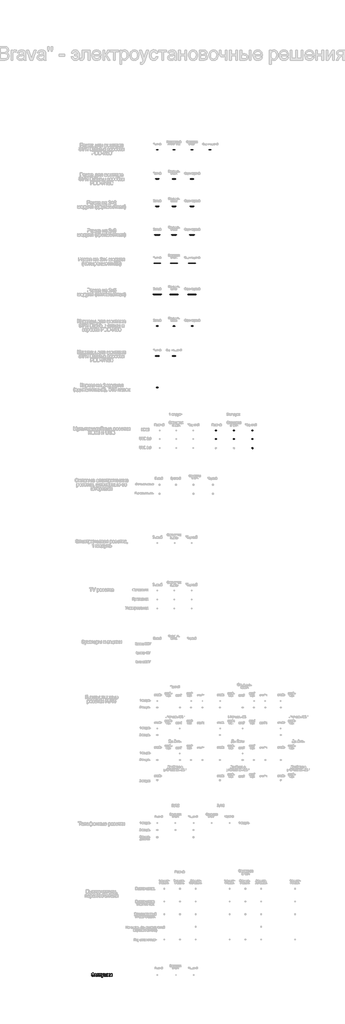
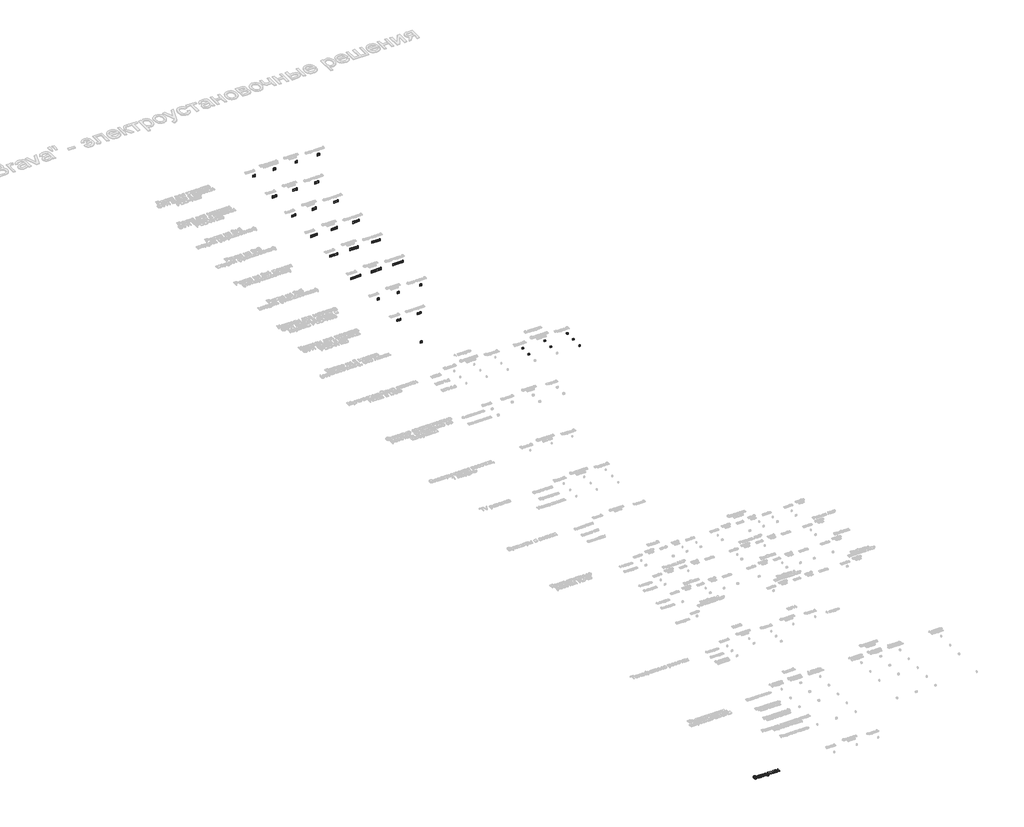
# One storey, part 2 of 47: 33 proxies.
"""IFC4 building model written with IfcOpenShell, lengths in millimetres."""

from ifc_helpers import new_model, si_unit, origin, origin_with_axes, place, context, project, spatial, polyline, outline, extrude, transform, mapped, element, save
from components import electrical_fixtures_2476e472, electrical_fixtures_ccfadcb0, electrical_fixtures_146b7f6f, electrical_fixtures_96c6bdfd, electrical_fixtures_fbcc075d, electrical_fixtures_0f3627e5, electrical_fixtures_76e51104, electrical_fixtures_c9cc8b38, electrical_fixtures_93c86673, electrical_fixtures_8efbb15c, hdmi_63f187ea, hdmi_5f817c11

model = new_model("IFC4")

# Units and contexts
model_context = context("Model", 3, world=origin())
ifc_project = project(units=[si_unit("LENGTHUNIT", "METRE", prefix="MILLI")], contexts=[model_context])

# Site, building, storey
site = spatial("IfcSite", under=ifc_project)
building = spatial("IfcBuilding", under=site)
storey = spatial("IfcBuildingStorey", under=building, Name="Этаж 01", Elevation=0.0)

# Proxies
placement = place(None, origin())
element("IfcBuildingElementProxy", 1, Name="150 мм Arial", ObjectType="150 мм Arial", at=placement, inside=storey, context=model_context, shape_type="SweptSolid", body=[
    extrude(outline(polyline([(-2899.5549825, -32460.2929103), (-2880.7194244, -32455.5840207), (-2869.1495356, -32475.9830774), (-2858.2188419, -32483.6396214), (-2844.2255305, -32486.1918027), (-2830.0482781, -32484.2742178), (-2819.2279489, -32478.5214631), (-2812.3715482, -32470.0555787), (-2810.0860813, -32459.9986047), (-2812.5830804, -32449.463384), (-2820.0740775, -32441.3285934), (-2831.8692939, -32436.1276617), (-2847.278951, -32434.3940178), (-2857.1749767, -32434.3940178), (-2857.1749767, -32415.5584597), (-2835.8562151, -32414.0317494), (-2822.8147983, -32406.2326511), (-2817.1494156, -32391.9772238), (-2819.0348108, -32383.1066692), (-2824.6909965, -32375.4777163), (-2833.5661497, -32370.2216023), (-2845.1084472, -32368.4695643), (-2864.3302815, -32373.8590355), (-2875.3299532, -32388.151251), (-2878.3649796, -32401.431791), (-2897.2005378, -32396.7229015), (-2891.3489148, -32376.1215098), (-2880.7470155, -32361.40623), (-2865.39484, -32352.5770621), (-2845.2923882, -32349.6340061), (-2825.9004086, -32352.6920252), (-2810.9873922, -32361.8660825), (-2801.4822411, -32375.1328269), (-2798.3138575, -32390.4689076), (-2803.2434762, -32409.1113277), (-2818.0323324, -32423.0264642), (-2807.5568926, -32427.8503168), (-2798.9392569, -32435.9943045), (-2793.1727066, -32446.7594514), (-2791.2505232, -32459.4467817), (-2794.9385402, -32477.2844599), (-2806.0025912, -32491.949156), (-2823.1550892, -32501.7578096), (-2845.1084472, -32505.0273609), (-2864.2107198, -32502.2314577), (-2879.6525666, -32493.8437482), (-2891.4339875, -32479.8642324), (-2899.5549825, -32460.2929103)])), origin_with_axes(), (0.0, 0.0, 1.0), 20.0),
    extrude(outline(polyline([(-2697.0727324, -32488.5462475), (-2715.3380735, -32501.3117527), (-2735.5164009, -32505.0273609), (-2751.2571518, -32502.7924778), (-2762.8684272, -32496.0878284), (-2770.0283306, -32485.9066942), (-2772.414965, -32473.2423565), (-2768.8097214, -32458.3431357), (-2759.3367601, -32447.527405), (-2746.1481905, -32441.3469875), (-2729.8510182, -32438.5142962), (-2697.183097, -32432.039573), (-2697.0727324, -32427.8457183), (-2698.3695164, -32419.4396147), (-2702.2598685, -32413.9397789), (-2710.9602777, -32409.8562887), (-2723.0819894, -32408.4951253), (-2742.1382768, -32412.118763), (-2751.2249621, -32424.9762387), (-2770.0605202, -32422.621794), (-2761.911934, -32404.2276942), (-2745.5043971, -32393.4487517), (-2720.6539683, -32389.6595672), (-2697.8268905, -32393.0072933), (-2684.9326265, -32401.4133969), (-2679.1568792, -32414.1972963), (-2678.2371742, -32430.6784097), (-2678.2371742, -32454.1124927), (-2677.280681, -32486.8355962), (-2673.5282847, -32502.6729161), (-2692.3638429, -32502.6729161), (-2697.0727324, -32488.5462475)]), holes=[polyline([(-2697.0727324, -32450.8751312), (-2727.4597852, -32456.6508785), (-2743.6649871, -32459.7042991), (-2751.0042329, -32464.670706), (-2753.5794068, -32471.9179813), (-2747.9692064, -32482.1083126), (-2731.5064871, -32486.1918027), (-2712.4501998, -32481.6852483), (-2700.1629411, -32470.7775471), (-2697.183097, -32456.2094201), (-2697.0727324, -32450.8751312)])]), origin_with_axes(), (0.0, 0.0, 1.0), 20.0),
    extrude(outline(polyline([(-2652.3382818, -32392.014012), (-2591.1227178, -32392.014012), (-2591.1227178, -32410.8495701), (-2633.5027236, -32410.8495701), (-2633.5027236, -32502.6729161), (-2652.3382818, -32502.6729161), (-2652.3382818, -32392.014012)])), origin_with_axes(), (0.0, 0.0, 1.0), 20.0),
    extrude(outline(polyline([(-2567.5782701, -32392.014012), (-2482.8182584, -32392.014012), (-2482.8182584, -32502.5625515), (-2501.6538166, -32502.5625515), (-2501.6538166, -32410.8495701), (-2548.7427119, -32410.8495701), (-2548.7427119, -32463.6406364), (-2550.0119048, -32487.9944245), (-2556.9832686, -32498.2767263), (-2573.464382, -32502.6729161), (-2588.768273, -32501.7164229), (-2588.768273, -32483.837358), (-2580.3437753, -32483.837358), (-2571.8273071, -32482.6785297), (-2568.4243987, -32478.9997097), (-2567.5782701, -32462.5737786), (-2567.5782701, -32392.014012)])), origin_with_axes(), (0.0, 0.0, 1.0), 20.0),
    extrude(outline(polyline([(-2454.5649212, -32545.052922), (-2456.9193659, -32526.9163396), (-2447.3544341, -32528.5718086), (-2438.4149016, -32526.4932753), (-2432.9334599, -32520.6991339), (-2427.7831119, -32506.8299827), (-2426.3115839, -32502.2682459), (-2466.337145, -32392.014012), (-2446.4715173, -32392.014012), (-2425.2447262, -32453.4503052), (-2417.8502981, -32478.0248224), (-2410.4558699, -32456.3197847), (-2388.6404676, -32392.014012), (-2368.9219927, -32392.014012), (-2407.4392376, -32505.3216665), (-2417.4456279, -32529.8961838), (-2428.3717231, -32543.1767238), (-2443.0502147, -32547.4073667), (-2454.5649212, -32545.052922)])), origin_with_axes(), (0.0, 0.0, 1.0), 20.0),
    extrude(outline(polyline([(-2353.3237961, -32392.014012), (-2334.4882379, -32392.014012), (-2334.4882379, -32483.837358), (-2292.1082321, -32483.837358), (-2292.1082321, -32392.014012), (-2273.2726739, -32392.014012), (-2273.2726739, -32483.837358), (-2230.8926681, -32483.837358), (-2230.8926681, -32392.014012), (-2212.0571099, -32392.014012), (-2212.0571099, -32502.6729161), (-2353.3237961, -32502.6729161), (-2353.3237961, -32392.014012)])), origin_with_axes(), (0.0, 0.0, 1.0), 20.0),
    extrude(outline(polyline([(-2186.1582175, -32392.014012), (-2167.3226593, -32392.014012), (-2167.3226593, -32439.1029073), (-2154.7043069, -32435.718393), (-2144.3668228, -32415.999918), (-2135.7767782, -32398.9853758), (-2128.1984091, -32393.4487517), (-2114.4212284, -32392.014012), (-2110.8159849, -32392.014012), (-2110.8159849, -32410.9599347), (-2115.8927564, -32410.8495701), (-2125.0898063, -32412.8361329), (-2131.5645294, -32425.2337561), (-2139.1612926, -32438.6430549), (-2149.8114764, -32445.2097485), (-2137.9288879, -32452.5397972), (-2126.2670287, -32467.981644), (-2106.1070953, -32502.6729161), (-2127.5178275, -32502.6729161), (-2147.2730906, -32468.717408), (-2157.2059045, -32454.351616), (-2167.3226593, -32450.8751312), (-2167.3226593, -32502.6729161), (-2186.1582175, -32502.6729161), (-2186.1582175, -32392.014012)])), origin_with_axes(), (0.0, 0.0, 1.0), 20.0),
    extrude(outline(polyline([(-2094.3348715, -32392.014012), (-2075.4993133, -32392.014012), (-2075.4993133, -32476.4061417), (-2029.2197583, -32392.014012), (-2004.8659703, -32392.014012), (-2004.8659703, -32502.6729161), (-2023.7015284, -32502.6729161), (-2023.7015284, -32418.7958212), (-2069.6867778, -32502.6729161), (-2094.3348715, -32502.6729161), (-2094.3348715, -32392.014012)])), origin_with_axes(), (0.0, 0.0, 1.0), 20.0),
])
electrical_fixtures_shape = electrical_fixtures_2476e472(model_context)
element("IfcBuildingElementProxy", 2, Name="КНС_КаркасНа2Модуля(одноместный)БезЛапок_DKC : 2 модуля", ObjectType="КНС_КаркасНа2Модуля(одноместный)БезЛапок_DKC : 2 модуля", at=placement, inside=storey, context=model_context, shape_type="MappedRepresentation", body=[
    mapped(electrical_fixtures_shape, transform((5.2936333, -6475.1899751, 0.0), x_axis=(1.0, 0.0, 0.0), y_axis=(0.0, 1.0, 0.0), z_axis=(0.0, 0.0, 1.0))),
])
electrical_fixtures_2_shape = electrical_fixtures_ccfadcb0(model_context)
element("IfcBuildingElementProxy", 3, Name="КНС_КаркасыДляМонтажаЭУИBravaВКоробкиPDD-N120_DKC : 4 модуля", ObjectType="КНС_КаркасыДляМонтажаЭУИBravaВКоробкиPDD-N120_DKC : 4 модуля", at=placement, inside=storey, context=model_context, shape_type="MappedRepresentation", body=[
    mapped(electrical_fixtures_2_shape, transform((5.2936333, -5073.7269514, 0.0), x_axis=(1.0, 0.0, 0.0), y_axis=(0.0, 1.0, 0.0), z_axis=(0.0, 0.0, 1.0))),
])
element("IfcBuildingElementProxy", 4, Name="КНС_КаркасыДляМонтажаЭУИBravaВСтеныИКоробкиPDD-N60_DKC : 2 модуля", ObjectType="КНС_КаркасыДляМонтажаЭУИBravaВСтеныИКоробкиPDD-N60_DKC : 2 модуля", at=placement, inside=storey, context=model_context, shape_type="MappedRepresentation", body=[
    mapped(electrical_fixtures_shape, transform((5.2936333, -3756.3517092, 0.0), x_axis=(1.0, 0.0, 0.0), y_axis=(0.0, 1.0, 0.0), z_axis=(0.0, 0.0, 1.0))),
])
electrical_fixtures_3_shape = electrical_fixtures_146b7f6f(model_context)
element("IfcBuildingElementProxy", 5, Name="КНС_РамкаНа2x5Модуля(пятиместная)_DKC : 2х5 модулей", ObjectType="КНС_РамкаНа2x5Модуля(пятиместная)_DKC : 2х5 модулей", at=placement, inside=storey, context=model_context, shape_type="MappedRepresentation", body=[
    mapped(electrical_fixtures_3_shape, transform((5.2936333, -2354.8886855, 0.0), x_axis=(1.0, 0.0, 0.0), y_axis=(0.0, 1.0, 0.0), z_axis=(0.0, 0.0, 1.0))),
])
electrical_fixtures_4_shape = electrical_fixtures_96c6bdfd(model_context)
element("IfcBuildingElementProxy", 6, Name="КНС_РамкаНа2x4Модуля(четырехместная)_DKC : 2х4 модулей", ObjectType="КНС_РамкаНа2x4Модуля(четырехместная)_DKC : 2х4 модулей", at=placement, inside=storey, context=model_context, shape_type="MappedRepresentation", body=[
    mapped(electrical_fixtures_4_shape, transform((5.2936333, -964.637366, 0.0), x_axis=(1.0, 0.0, 0.0), y_axis=(0.0, 1.0, 0.0), z_axis=(0.0, 0.0, 1.0))),
])
electrical_fixtures_5_shape = electrical_fixtures_fbcc075d(model_context)
element("IfcBuildingElementProxy", 7, Name="КНС_РамкаНа2x3Модуля(трехместная)_DKC : 2х3 модулей", ObjectType="КНС_РамкаНа2x3Модуля(трехместная)_DKC : 2х3 модулей", at=placement, inside=storey, context=model_context, shape_type="MappedRepresentation", body=[
    mapped(electrical_fixtures_5_shape, transform((5.2936333, 279.861799, 0.0), x_axis=(1.0, 0.0, 0.0), y_axis=(0.0, 1.0, 0.0), z_axis=(0.0, 0.0, 1.0))),
])
electrical_fixtures_6_shape = electrical_fixtures_0f3627e5(model_context)
element("IfcBuildingElementProxy", 8, Name="КНС_РамкаНа2+2Модуля(двухместная)_DKC : 2+2 модуля", ObjectType="КНС_РамкаНа2+2Модуля(двухместная)_DKC : 2+2 модуля", at=placement, inside=storey, context=model_context, shape_type="MappedRepresentation", body=[
    mapped(electrical_fixtures_6_shape, transform((5.2936333, 1541.1785203, 0.0), x_axis=(1.0, 0.0, 0.0), y_axis=(0.0, 1.0, 0.0), z_axis=(0.0, 0.0, 1.0))),
])
electrical_fixtures_7_shape = electrical_fixtures_76e51104(model_context)
element("IfcBuildingElementProxy", 9, Name="КНС_РамкаДляМонтажаЭУИBravaВКоробкиPDD-N120_DKC : 4 модуля", ObjectType="КНС_РамкаДляМонтажаЭУИBravaВКоробкиPDD-N120_DKC : 4 модуля", at=placement, inside=storey, context=model_context, shape_type="MappedRepresentation", body=[
    mapped(electrical_fixtures_7_shape, transform((5.2936333, 2752.0425728, 0.0), x_axis=(1.0, 0.0, 0.0), y_axis=(0.0, 1.0, 0.0), z_axis=(0.0, 0.0, 1.0))),
])
electrical_fixtures_8_shape = electrical_fixtures_c9cc8b38(model_context)
element("IfcBuildingElementProxy", 10, Name="КНС_РамкаДляМонтажаЭУИBravaВКоробкиPDD-N60_DKC : 2 модуля", ObjectType="КНС_РамкаДляМонтажаЭУИBravaВКоробкиPDD-N60_DKC : 2 модуля", at=placement, inside=storey, context=model_context, shape_type="MappedRepresentation", body=[
    mapped(electrical_fixtures_8_shape, transform((5.2936333, 4046.9944066, 0.0), x_axis=(1.0, 0.0, 0.0), y_axis=(0.0, 1.0, 0.0), z_axis=(0.0, 0.0, 1.0))),
])
element("IfcBuildingElementProxy", 11, Name="КНС_РамкаДляМонтажаЭУИBravaВКоробкиPDD-N60_DKC : 2 модуля", ObjectType="КНС_РамкаДляМонтажаЭУИBravaВКоробкиPDD-N60_DKC : 2 модуля", at=placement, inside=storey, context=model_context, shape_type="MappedRepresentation", body=[
    mapped(electrical_fixtures_8_shape, transform((745.7110732, 4046.9944066, 0.0), x_axis=(1.0, 0.0, 0.0), y_axis=(0.0, 1.0, 0.0), z_axis=(0.0, 0.0, 1.0))),
])
element("IfcBuildingElementProxy", 12, Name="КНС_РамкаДляМонтажаЭУИBravaВКоробкиPDD-N60_DKC : 2 модуля", ObjectType="КНС_РамкаДляМонтажаЭУИBravaВКоробкиPDD-N60_DKC : 2 модуля", at=placement, inside=storey, context=model_context, shape_type="MappedRepresentation", body=[
    mapped(electrical_fixtures_8_shape, transform((1540.930107, 4046.9944066, 0.0), x_axis=(1.0, 0.0, 0.0), y_axis=(0.0, 1.0, 0.0), z_axis=(0.0, 0.0, 1.0))),
])
element("IfcBuildingElementProxy", 13, Name="КНС_РамкаДляМонтажаЭУИBravaВКоробкиPDD-N60_DKC : 2 модуля", ObjectType="КНС_РамкаДляМонтажаЭУИBravaВКоробкиPDD-N60_DKC : 2 модуля", at=placement, inside=storey, context=model_context, shape_type="MappedRepresentation", body=[
    mapped(electrical_fixtures_8_shape, transform((2345.930107, 4046.9944066, 0.0), x_axis=(1.0, 0.0, 0.0), y_axis=(0.0, 1.0, 0.0), z_axis=(0.0, 0.0, 1.0))),
])
element("IfcBuildingElementProxy", 14, Name="КНС_РамкаДляМонтажаЭУИBravaВКоробкиPDD-N120_DKC : 4 модуля", ObjectType="КНС_РамкаДляМонтажаЭУИBravaВКоробкиPDD-N120_DKC : 4 модуля", at=placement, inside=storey, context=model_context, shape_type="MappedRepresentation", body=[
    mapped(electrical_fixtures_7_shape, transform((745.7110732, 2752.0425728, 0.0), x_axis=(1.0, 0.0, 0.0), y_axis=(0.0, 1.0, 0.0), z_axis=(0.0, 0.0, 1.0))),
])
element("IfcBuildingElementProxy", 15, Name="КНС_РамкаДляМонтажаЭУИBravaВКоробкиPDD-N120_DKC : 4 модуля", ObjectType="КНС_РамкаДляМонтажаЭУИBravaВКоробкиPDD-N120_DKC : 4 модуля", at=placement, inside=storey, context=model_context, shape_type="MappedRepresentation", body=[
    mapped(electrical_fixtures_7_shape, transform((1540.930107, 2752.0425728, 0.0), x_axis=(1.0, 0.0, 0.0), y_axis=(0.0, 1.0, 0.0), z_axis=(0.0, 0.0, 1.0))),
])
element("IfcBuildingElementProxy", 16, Name="КНС_РамкаНа2+2Модуля(двухместная)_DKC : 2+2 модуля", ObjectType="КНС_РамкаНа2+2Модуля(двухместная)_DKC : 2+2 модуля", at=placement, inside=storey, context=model_context, shape_type="MappedRepresentation", body=[
    mapped(electrical_fixtures_6_shape, transform((745.7110732, 1541.1785203, 0.0), x_axis=(1.0, 0.0, 0.0), y_axis=(0.0, 1.0, 0.0), z_axis=(0.0, 0.0, 1.0))),
])
element("IfcBuildingElementProxy", 17, Name="КНС_РамкаНа2+2Модуля(двухместная)_DKC : 2+2 модуля", ObjectType="КНС_РамкаНа2+2Модуля(двухместная)_DKC : 2+2 модуля", at=placement, inside=storey, context=model_context, shape_type="MappedRepresentation", body=[
    mapped(electrical_fixtures_6_shape, transform((1540.930107, 1541.1785203, 0.0), x_axis=(1.0, 0.0, 0.0), y_axis=(0.0, 1.0, 0.0), z_axis=(0.0, 0.0, 1.0))),
])
element("IfcBuildingElementProxy", 18, Name="КНС_РамкаНа2x3Модуля(трехместная)_DKC : 2х3 модулей", ObjectType="КНС_РамкаНа2x3Модуля(трехместная)_DKC : 2х3 модулей", at=placement, inside=storey, context=model_context, shape_type="MappedRepresentation", body=[
    mapped(electrical_fixtures_5_shape, transform((745.7110732, 279.861799, 0.0), x_axis=(1.0, 0.0, 0.0), y_axis=(0.0, 1.0, 0.0), z_axis=(0.0, 0.0, 1.0))),
])
element("IfcBuildingElementProxy", 19, Name="КНС_РамкаНа2x3Модуля(трехместная)_DKC : 2х3 модулей", ObjectType="КНС_РамкаНа2x3Модуля(трехместная)_DKC : 2х3 модулей", at=placement, inside=storey, context=model_context, shape_type="MappedRepresentation", body=[
    mapped(electrical_fixtures_5_shape, transform((1540.930107, 279.861799, 0.0), x_axis=(1.0, 0.0, 0.0), y_axis=(0.0, 1.0, 0.0), z_axis=(0.0, 0.0, 1.0))),
])
element("IfcBuildingElementProxy", 20, Name="КНС_РамкаНа2x4Модуля(четырехместная)_DKC : 2х4 модулей", ObjectType="КНС_РамкаНа2x4Модуля(четырехместная)_DKC : 2х4 модулей", at=placement, inside=storey, context=model_context, shape_type="MappedRepresentation", body=[
    mapped(electrical_fixtures_4_shape, transform((745.7110732, -964.637366, 0.0), x_axis=(1.0, 0.0, 0.0), y_axis=(0.0, 1.0, 0.0), z_axis=(0.0, 0.0, 1.0))),
])
element("IfcBuildingElementProxy", 21, Name="КНС_РамкаНа2x4Модуля(четырехместная)_DKC : 2х4 модулей", ObjectType="КНС_РамкаНа2x4Модуля(четырехместная)_DKC : 2х4 модулей", at=placement, inside=storey, context=model_context, shape_type="MappedRepresentation", body=[
    mapped(electrical_fixtures_4_shape, transform((1540.930107, -964.637366, 0.0), x_axis=(1.0, 0.0, 0.0), y_axis=(0.0, 1.0, 0.0), z_axis=(0.0, 0.0, 1.0))),
])
element("IfcBuildingElementProxy", 22, Name="КНС_РамкаНа2x5Модуля(пятиместная)_DKC : 2х5 модулей", ObjectType="КНС_РамкаНа2x5Модуля(пятиместная)_DKC : 2х5 модулей", at=placement, inside=storey, context=model_context, shape_type="MappedRepresentation", body=[
    mapped(electrical_fixtures_3_shape, transform((745.7110732, -2354.8886855, 0.0), x_axis=(1.0, 0.0, 0.0), y_axis=(0.0, 1.0, 0.0), z_axis=(0.0, 0.0, 1.0))),
])
element("IfcBuildingElementProxy", 23, Name="КНС_РамкаНа2x5Модуля(пятиместная)_DKC : 2х5 модулей", ObjectType="КНС_РамкаНа2x5Модуля(пятиместная)_DKC : 2х5 модулей", at=placement, inside=storey, context=model_context, shape_type="MappedRepresentation", body=[
    mapped(electrical_fixtures_3_shape, transform((1540.930107, -2354.8886855, 0.0), x_axis=(1.0, 0.0, 0.0), y_axis=(0.0, 1.0, 0.0), z_axis=(0.0, 0.0, 1.0))),
])
electrical_fixtures_9_shape = electrical_fixtures_93c86673(model_context)
element("IfcBuildingElementProxy", 24, Name="КНС_КаркасыДляМонтажаЭУИBravaВСтеныИКоробкиPDD-N60_DKC : 2 модуля", ObjectType="КНС_КаркасыДляМонтажаЭУИBravaВСтеныИКоробкиPDD-N60_DKC : 2 модуля", at=placement, inside=storey, context=model_context, shape_type="MappedRepresentation", body=[
    mapped(electrical_fixtures_9_shape, transform((1551.3106748, -3756.3517092, 0.0), x_axis=(1.0, 0.0, 0.0), y_axis=(0.0, 1.0, 0.0), z_axis=(0.0, 0.0, 1.0))),
])
element("IfcBuildingElementProxy", 25, Name="КНС_КаркасыДляМонтажаЭУИBravaВСтеныИКоробкиPDD-N60_DKC : 2 модуля", ObjectType="КНС_КаркасыДляМонтажаЭУИBravaВСтеныИКоробкиPDD-N60_DKC : 2 модуля", at=placement, inside=storey, context=model_context, shape_type="MappedRepresentation", body=[
    mapped(electrical_fixtures_9_shape, transform((744.3889417, -3756.3517092, 0.0), x_axis=(1.0, 0.0, 0.0), y_axis=(0.0, 1.0, 0.0), z_axis=(0.0, 0.0, 1.0))),
])
electrical_fixtures_10_shape = electrical_fixtures_8efbb15c(model_context)
element("IfcBuildingElementProxy", 26, Name="КНС_КаркасыДляМонтажаЭУИBravaВКоробкиPDD-N120_DKC : 4 модуля", ObjectType="КНС_КаркасыДляМонтажаЭУИBravaВКоробкиPDD-N120_DKC : 4 модуля", at=placement, inside=storey, context=model_context, shape_type="MappedRepresentation", body=[
    mapped(electrical_fixtures_10_shape, transform((744.3889417, -5073.7269514, 0.0), x_axis=(1.0, 0.0, 0.0), y_axis=(0.0, 1.0, 0.0), z_axis=(0.0, 0.0, 1.0))),
])
hdmi_shape = hdmi_63f187ea(model_context)
element("IfcBuildingElementProxy", 27, Name="КНС_МультимедийныеРозеткиHDMIиUSB_DKC : HDMI", ObjectType="КНС_МультимедийныеРозеткиHDMIиUSB_DKC : HDMI", at=placement, inside=storey, context=model_context, shape_type="MappedRepresentation", body=[
    mapped(hdmi_shape, transform((2600.7194508, -8354.2295904, 0.0), x_axis=(1.0, 0.0, 0.0), y_axis=(0.0, 1.0, 0.0), z_axis=(0.0, 0.0, 1.0))),
])
hdmi_2_shape = hdmi_5f817c11(model_context)
element("IfcBuildingElementProxy", 28, Name="КНС_МультимедийныеРозеткиHDMIиUSB_DKC : HDMI", ObjectType="КНС_МультимедийныеРозеткиHDMIиUSB_DKC : HDMI", at=placement, inside=storey, context=model_context, shape_type="MappedRepresentation", body=[
    mapped(hdmi_2_shape, transform((3401.0045389, -8354.2295904, 0.0), x_axis=(1.0, 0.0, 0.0), y_axis=(0.0, 1.0, 0.0), z_axis=(0.0, 0.0, 1.0))),
])
element("IfcBuildingElementProxy", 29, Name="КНС_МультимедийныеРозеткиHDMIиUSB_DKC : HDMI", ObjectType="КНС_МультимедийныеРозеткиHDMIиUSB_DKC : HDMI", at=placement, inside=storey, context=model_context, shape_type="MappedRepresentation", body=[
    mapped(hdmi_2_shape, transform((4218.0730169, -8354.2295904, 0.0), x_axis=(1.0, 0.0, 0.0), y_axis=(0.0, 1.0, 0.0), z_axis=(0.0, 0.0, 1.0))),
])
element("IfcBuildingElementProxy", 30, Name="КНС_МультимедийныеРозеткиHDMIиUSB_DKC : USB 2.0", ObjectType="КНС_МультимедийныеРозеткиHDMIиUSB_DKC : USB 2.0", at=placement, inside=storey, context=model_context, shape_type="MappedRepresentation", body=[
    mapped(hdmi_shape, transform((2600.7194508, -8732.4029593, 0.0), x_axis=(1.0, 0.0, 0.0), y_axis=(0.0, 1.0, 0.0), z_axis=(0.0, 0.0, 1.0))),
])
element("IfcBuildingElementProxy", 31, Name="КНС_МультимедийныеРозеткиHDMIиUSB_DKC : USB 2.0", ObjectType="КНС_МультимедийныеРозеткиHDMIиUSB_DKC : USB 2.0", at=placement, inside=storey, context=model_context, shape_type="MappedRepresentation", body=[
    mapped(hdmi_2_shape, transform((3401.0045389, -8732.4029593, 0.0), x_axis=(1.0, 0.0, 0.0), y_axis=(0.0, 1.0, 0.0), z_axis=(0.0, 0.0, 1.0))),
])
element("IfcBuildingElementProxy", 32, Name="КНС_МультимедийныеРозеткиHDMIиUSB_DKC : USB 2.0", ObjectType="КНС_МультимедийныеРозеткиHDMIиUSB_DKC : USB 2.0", at=placement, inside=storey, context=model_context, shape_type="MappedRepresentation", body=[
    mapped(hdmi_2_shape, transform((4218.0730169, -8732.4029593, 0.0), x_axis=(1.0, 0.0, 0.0), y_axis=(0.0, 1.0, 0.0), z_axis=(0.0, 0.0, 1.0))),
])
element("IfcBuildingElementProxy", 33, Name="КНС_МультимедийныеРозеткиHDMIиUSB_DKC : USB 3.0", ObjectType="КНС_МультимедийныеРозеткиHDMIиUSB_DKC : USB 3.0", at=placement, inside=storey, context=model_context, shape_type="MappedRepresentation", body=[
    mapped(hdmi_2_shape, transform((4218.0730169, -9132.6470308, 0.0), x_axis=(1.0, 0.0, 0.0), y_axis=(0.0, 1.0, 0.0), z_axis=(0.0, 0.0, 1.0))),
])

save(model, "model.ifc")
